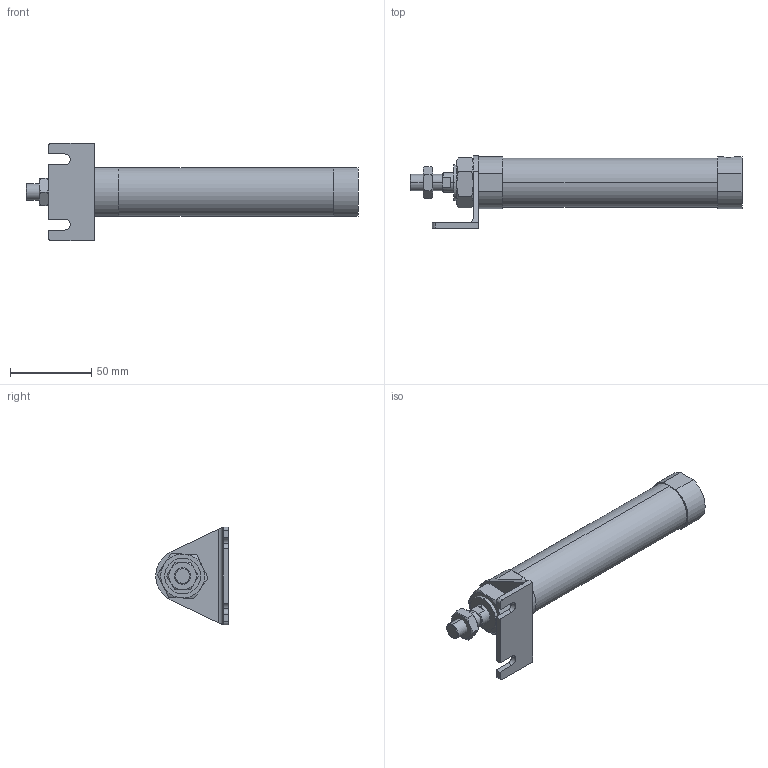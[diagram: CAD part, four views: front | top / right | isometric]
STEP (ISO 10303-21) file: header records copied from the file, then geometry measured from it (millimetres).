
FILE_DESCRIPTION (( 'STEP AP203' ), '1' );
FILE_NAME ('JGND1-25-50-L.STEP', '2016-08-04T02:18:48', ( '' ), ( '' ), 'SwSTEP 2.0', 'SolidWorks 2014', '' );
FILE_SCHEMA (( 'CONFIG_CONTROL_DESIGN' ));
Length unit declared in the file: millimetre
Products named in the file (5): J#2-25-L; JGND1-25-50-L; J#1-25-50(P)
Assembly tree (4 placements, depth 2):
  JGND1-25-50-L
    J#1-25-50(P)
    (unnamed)
    (unnamed)
    J#2-25-L
Bounding box: 204 x 44.5 x 60 mm (x, y, z)
Volume: 136821.1 mm3; surface area: 29227.9 mm2
Topology: 4 solids, 4 shells, 111 faces, 258 edges, 157 vertices
Faces by surface type: plane 50, cylinder 31, torus 24, cone 6
Entity records: 3913 total; most frequent: CARTESIAN_POINT 911, DIRECTION 526, ORIENTED_EDGE 512, EDGE_CURVE 256, AXIS2_PLACEMENT_3D 208, VERTEX_POINT 157, EDGE_LOOP 121, FACE_OUTER_BOUND 111
